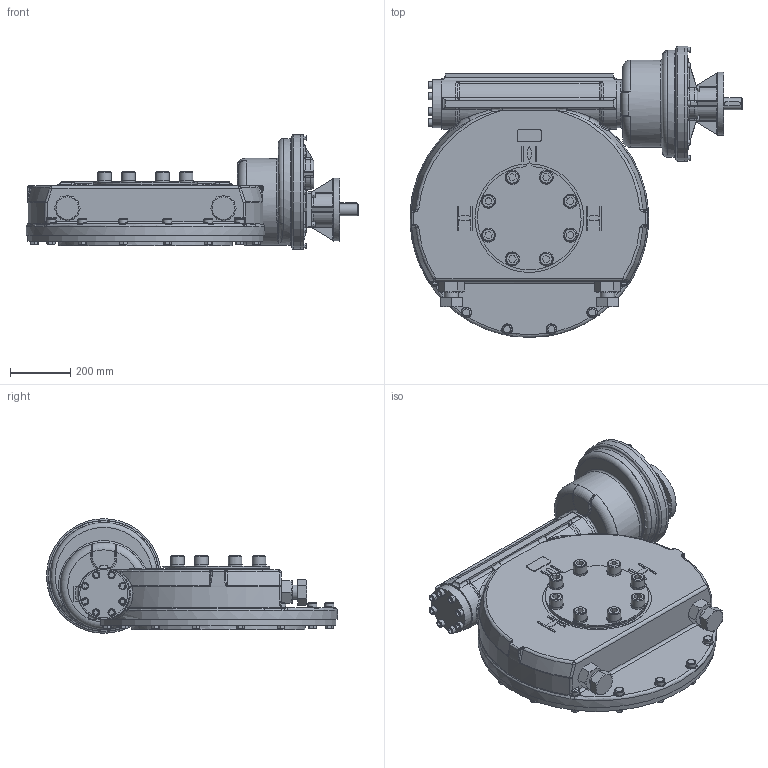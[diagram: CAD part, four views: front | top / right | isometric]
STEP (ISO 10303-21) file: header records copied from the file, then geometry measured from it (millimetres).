
FILE_DESCRIPTION( ( 'Unknown' ), '1' );
FILE_NAME( 'X:/CURRENT/PUB/IW/IW-2009/IW-2009-MODELS/IW - 3D Models Simplified STEP/PUB-IW11IR3-MOTF16_simplified.stp', 'Unknown', ( 'Unknown' ), ( 'Unknown' ), 'PSStep 15.0.49', 'Unknown', ' ' );
FILE_SCHEMA( ( 'AUTOMOTIVE_DESIGN { 1 0 10303 214 1 1 1 1 }' ) );
Length unit declared in the file: millimetre
Products named in the file (66): 1; 2; 3; 4; 5; 6; 7; 8; 9; 10; 11; 12; 13; 14; 15; 16; 17; 18; 19; 20; 21; 22; 23; 24; 25; 26; 27; 28; 29; 30; 31; 32; 33; 34; 35; 36; 37; 38; 39; 40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
Bounding box: 1105.97 x 969.5 x 382 mm (x, y, z)
Surface area: 2796497.1 mm2 (no closed solid volume)
Topology: 0 solids, 1241 shells, 1241 faces, 5709 edges, 5526 vertices
Faces by surface type: plane 516, cylinder 248, cone 176, bspline 117, torus 110, sphere 74
Full cylindrical faces by diameter (mm): 16 x8, 18 x4, 20.5 x4, 24 x8, 30 x4, 32 x8, 40 x1, 45 x8, 47 x8, 48 x2, 126.92 x1, 160 x2, 170 x1, 210 x1, 250 x1, 290 x1, 340 x1, 356 x1, 362 x1, 382 x2, 580 x1, 785 x1
Entity records: 103061 total; most frequent: CARTESIAN_POINT 51392, DIRECTION 8472, VERTEX_POINT 5454, ORIENTED_EDGE 5446, EDGE_CURVE 5446, AXIS2_PLACEMENT_3D 3096, LINE 2280, VECTOR 2280
